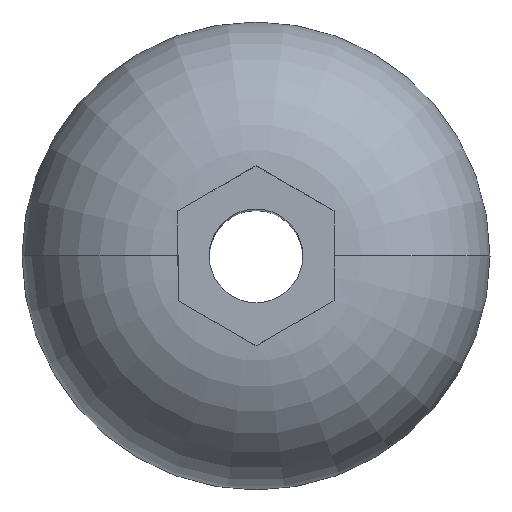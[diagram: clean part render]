
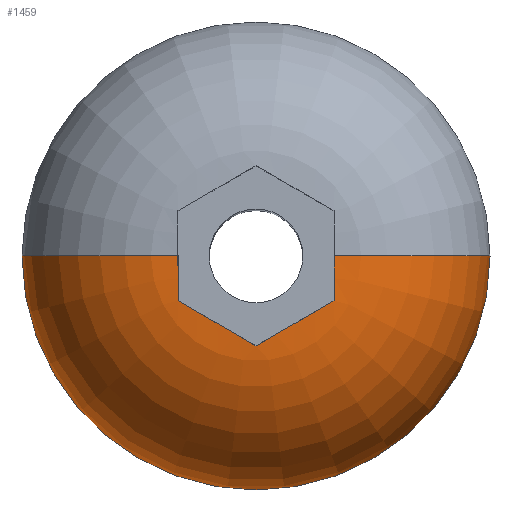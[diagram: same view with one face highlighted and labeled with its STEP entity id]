
A CAD part, top view. The second image highlights one B-rep face of the part: STEP entity #1459.
In plain terms, the highlighted toroidal (fillet/blend) face has major radius 0.75 mm and minor radius 1.5 mm.
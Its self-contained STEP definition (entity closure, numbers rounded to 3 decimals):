
#18 = CARTESIAN_POINT ( 'NONE',  ( -0.75, -0.071, 1.5 ) ) ;
#64 = CARTESIAN_POINT ( 'NONE',  ( -0.375, -0.65, 1.499 ) ) ;
#89 = CARTESIAN_POINT ( 'NONE',  ( 0.375, -0.65, 1.499 ) ) ;
#170 = DIRECTION ( 'NONE',  ( 1., 0., 0. ) ) ;
#173 = EDGE_CURVE ( 'NONE', #1307, #628, #2170, .T. ) ;
#206 = VERTEX_POINT ( 'NONE', #2076 ) ;
#279 = AXIS2_PLACEMENT_3D ( 'NONE', #438, #1279, #1811 ) ;
#290 = CARTESIAN_POINT ( 'NONE',  ( 0., -0.866, 1.496 ) ) ;
#300 = CARTESIAN_POINT ( 'NONE',  ( 0.75, 0., 0. ) ) ;
#359 = CARTESIAN_POINT ( 'NONE',  ( 0., 0., 0. ) ) ;
#394 = CARTESIAN_POINT ( 'NONE',  ( 0.75, -0.144, 1.5 ) ) ;
#408 = CARTESIAN_POINT ( 'NONE',  ( 0.75, 0., 1.5 ) ) ;
#438 = CARTESIAN_POINT ( 'NONE',  ( 0., 0., 0. ) ) ;
#530 = CARTESIAN_POINT ( 'NONE',  ( -0.75, -0.144, 1.5 ) ) ;
#532 = VERTEX_POINT ( 'NONE', #1677 ) ;
#541 = TOROIDAL_SURFACE ( 'NONE', #279, 0.75, 1.5 ) ;
#628 = VERTEX_POINT ( 'NONE', #1745 ) ;
#636 = FACE_OUTER_BOUND ( 'NONE', #2243, .T. ) ;
#660 = DIRECTION ( 'NONE',  ( 0., 1., 0. ) ) ;
#724 = CARTESIAN_POINT ( 'NONE',  ( 0.75, -0.289, 1.499 ) ) ;
#742 = B_SPLINE_CURVE_WITH_KNOTS ( 'NONE', 3,
 ( #1030, #1038, #1394, #530, #18, #2036 ),
 .UNSPECIFIED., .F., .F.,
 ( 4, 2, 4 ),
 ( 0.011, 0.012, 0.012 ),
 .UNSPECIFIED. ) ;
#753 = CARTESIAN_POINT ( 'NONE',  ( 0.75, -0.433, 1.496 ) ) ;
#818 = ORIENTED_EDGE ( 'NONE', *, *, #1112, .F. ) ;
#826 = EDGE_CURVE ( 'NONE', #532, #1170, #742, .T. ) ;
#855 = EDGE_CURVE ( 'NONE', #1142, #2164, #923, .T. ) ;
#899 = AXIS2_PLACEMENT_3D ( 'NONE', #359, #1391, #170 ) ;
#911 = CARTESIAN_POINT ( 'NONE',  ( 0.75, -0.361, 1.498 ) ) ;
#923 = B_SPLINE_CURVE_WITH_KNOTS ( 'NONE', 3,
 ( #753, #2153, #89, #1470, #1782 ),
 .UNSPECIFIED., .F., .F.,
 ( 4, 1, 4 ),
 ( 0., 0., 0.001 ),
 .UNSPECIFIED. ) ;
#928 = CARTESIAN_POINT ( 'NONE',  ( 0.75, -0.072, 1.5 ) ) ;
#1016 = EDGE_CURVE ( 'NONE', #628, #206, #1194, .T. ) ;
#1030 = CARTESIAN_POINT ( 'NONE',  ( -0.75, -0.433, 1.496 ) ) ;
#1038 = CARTESIAN_POINT ( 'NONE',  ( -0.75, -0.361, 1.498 ) ) ;
#1070 = CARTESIAN_POINT ( 'NONE',  ( -0.125, -0.794, 1.501 ) ) ;
#1084 = CARTESIAN_POINT ( 'NONE',  ( 0.75, -0.433, 1.496 ) ) ;
#1112 = EDGE_CURVE ( 'NONE', #1307, #1170, #1653, .T. ) ;
#1142 = VERTEX_POINT ( 'NONE', #2226 ) ;
#1170 = VERTEX_POINT ( 'NONE', #2088 ) ;
#1173 = ORIENTED_EDGE ( 'NONE', *, *, #826, .T. ) ;
#1193 = AXIS2_PLACEMENT_3D ( 'NONE', #300, #1533, #2040 ) ;
#1194 = CIRCLE ( 'NONE', #1193, 1.5 ) ;
#1244 = CARTESIAN_POINT ( 'NONE',  ( -2.25, 0., 0. ) ) ;
#1279 = DIRECTION ( 'NONE',  ( 0., 0., 1. ) ) ;
#1293 = CARTESIAN_POINT ( 'NONE',  ( -0.75, -0.433, 1.496 ) ) ;
#1307 = VERTEX_POINT ( 'NONE', #1244 ) ;
#1391 = DIRECTION ( 'NONE',  ( 0., 0., 1. ) ) ;
#1394 = CARTESIAN_POINT ( 'NONE',  ( -0.75, -0.289, 1.499 ) ) ;
#1419 = CARTESIAN_POINT ( 'NONE',  ( 0., -0.866, 1.496 ) ) ;
#1434 = B_SPLINE_CURVE_WITH_KNOTS ( 'NONE', 3,
 ( #1419, #1070, #64, #1447, #1293 ),
 .UNSPECIFIED., .F., .F.,
 ( 4, 1, 4 ),
 ( 0., 0., 0.001 ),
 .UNSPECIFIED. ) ;
#1447 = CARTESIAN_POINT ( 'NONE',  ( -0.625, -0.505, 1.501 ) ) ;
#1458 = EDGE_CURVE ( 'NONE', #2164, #532, #1434, .T. ) ;
#1459 = ADVANCED_FACE ( 'NONE', ( #636 ), #541, .T. ) ;
#1470 = CARTESIAN_POINT ( 'NONE',  ( 0.125, -0.794, 1.501 ) ) ;
#1492 = ORIENTED_EDGE ( 'NONE', *, *, #855, .T. ) ;
#1533 = DIRECTION ( 'NONE',  ( 0., -1., 0. ) ) ;
#1653 = CIRCLE ( 'NONE', #1856, 1.5 ) ;
#1677 = CARTESIAN_POINT ( 'NONE',  ( -0.75, -0.433, 1.496 ) ) ;
#1745 = CARTESIAN_POINT ( 'NONE',  ( 2.25, 0., 0. ) ) ;
#1782 = CARTESIAN_POINT ( 'NONE',  ( 0., -0.866, 1.496 ) ) ;
#1811 = DIRECTION ( 'NONE',  ( 1., 0., 0. ) ) ;
#1856 = AXIS2_PLACEMENT_3D ( 'NONE', #2211, #660, #2204 ) ;
#1938 = B_SPLINE_CURVE_WITH_KNOTS ( 'NONE', 3,
 ( #408, #928, #394, #724, #911, #1084 ),
 .UNSPECIFIED., .F., .F.,
 ( 4, 2, 4 ),
 ( 0., 0., 0. ),
 .UNSPECIFIED. ) ;
#1946 = EDGE_CURVE ( 'NONE', #206, #1142, #1938, .T. ) ;
#1968 = ORIENTED_EDGE ( 'NONE', *, *, #1458, .T. ) ;
#1986 = ORIENTED_EDGE ( 'NONE', *, *, #1016, .T. ) ;
#2015 = ORIENTED_EDGE ( 'NONE', *, *, #1946, .T. ) ;
#2036 = CARTESIAN_POINT ( 'NONE',  ( -0.75, 0., 1.5 ) ) ;
#2040 = DIRECTION ( 'NONE',  ( 0., 0., -1. ) ) ;
#2076 = CARTESIAN_POINT ( 'NONE',  ( 0.75, 0., 1.5 ) ) ;
#2088 = CARTESIAN_POINT ( 'NONE',  ( -0.75, 0., 1.5 ) ) ;
#2151 = ORIENTED_EDGE ( 'NONE', *, *, #173, .T. ) ;
#2153 = CARTESIAN_POINT ( 'NONE',  ( 0.625, -0.505, 1.501 ) ) ;
#2164 = VERTEX_POINT ( 'NONE', #290 ) ;
#2170 = CIRCLE ( 'NONE', #899, 2.25 ) ;
#2204 = DIRECTION ( 'NONE',  ( -1., 0., 0. ) ) ;
#2211 = CARTESIAN_POINT ( 'NONE',  ( -0.75, 0., 0. ) ) ;
#2226 = CARTESIAN_POINT ( 'NONE',  ( 0.75, -0.433, 1.496 ) ) ;
#2243 = EDGE_LOOP ( 'NONE', ( #818, #2151, #1986, #2015, #1492, #1968, #1173 ) ) ;
